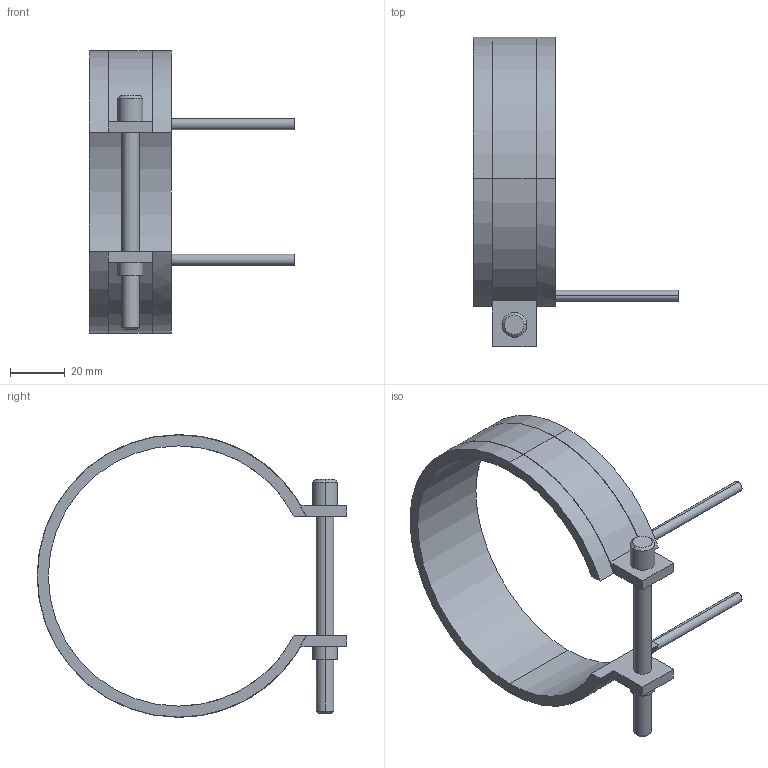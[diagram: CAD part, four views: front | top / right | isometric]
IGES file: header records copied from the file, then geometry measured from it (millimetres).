
Start section: START RECORD GO HERE.
Global section: file name: 14095030.igs; native system: DASSAULT SYSTEMES CATIA V5 R20 - www.3ds.com; preprocessor: CATIA Version 5 Release 20 ; author: Utente; organization: NB04-ASUS; date: 20210406.180602; units: millimetre
Bounding box: 75 x 113.1 x 103.2 mm (x, y, z)
Surface area: 22367.8 mm2 (no closed solid volume)
Topology: 0 solids, 0 shells, 45 faces, 232 edges, 232 vertices
Faces by surface type: revolution 28, plane 17
